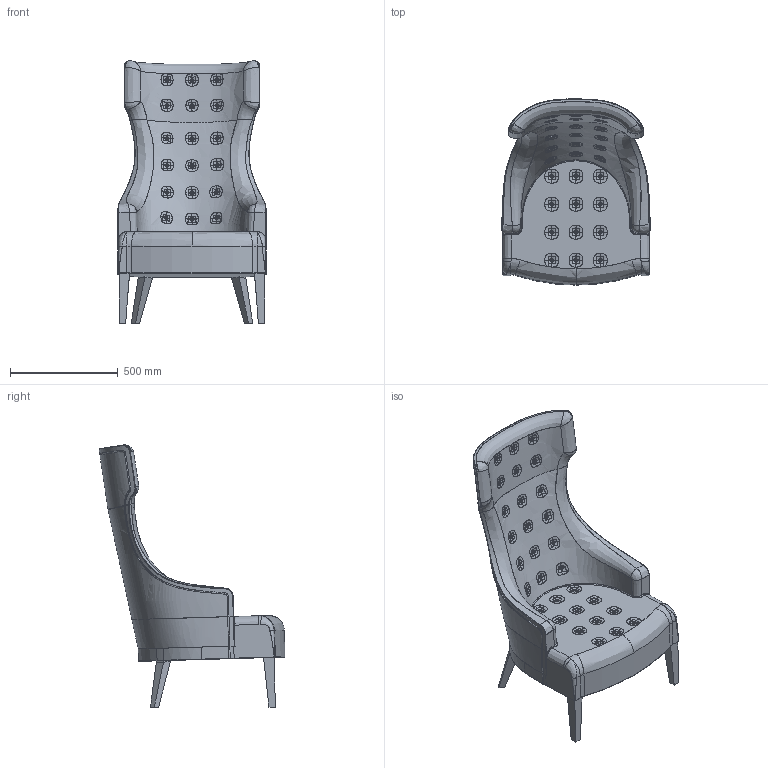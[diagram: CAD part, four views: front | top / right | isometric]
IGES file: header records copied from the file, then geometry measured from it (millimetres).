
Start section: SolidWorks IGES file using analytic representation for surfaces
Global section: file name: C:\Users\Adao\Documents\Trab Adao\Desenho técnico PRODUÇÃO\J M S\HANNA\HANNA (3D)\Poltrona HANNA M-608.IGS; native system: SolidWorks 2012; preprocessor: SolidWorks 2012; author: Adao; date: 121219.144358; units: millimetre
Bounding box: 687.69 x 862.64 x 1216.39 mm (x, y, z)
Surface area: 2606693.7 mm2 (no closed solid volume)
Topology: 0 solids, 0 shells, 671 faces, 21260 edges, 21199 vertices
Faces by surface type: bspline 575, revolution 96
